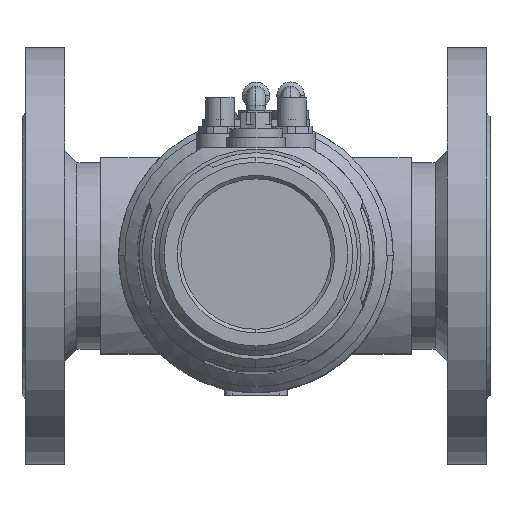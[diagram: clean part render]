
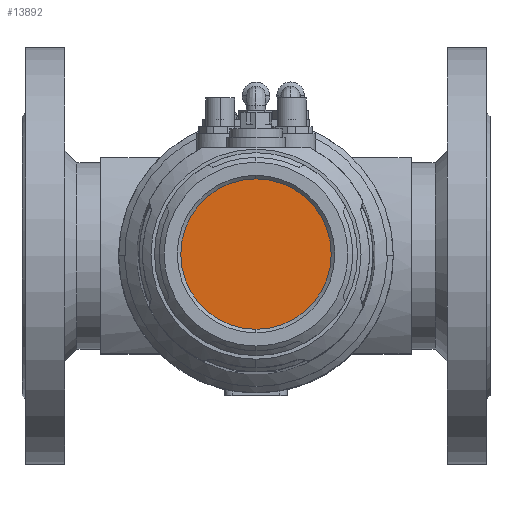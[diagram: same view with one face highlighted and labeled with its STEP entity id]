
A CAD part, top view. The second image highlights one B-rep face of the part: STEP entity #13892.
In plain terms, the highlighted planar face has unit normal (0, 0, 1) as drawn and (0, 1, 0) by its records, which use the part's own axes.
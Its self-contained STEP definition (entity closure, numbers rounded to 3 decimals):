
#9284=CARTESIAN_POINT('',(0.,20.,0.));
#9285=DIRECTION('',(0.,-1.,0.));
#9286=DIRECTION('',(-1.,0.,0.));
#9287=AXIS2_PLACEMENT_3D('',#9284,#9285,#9286);
#9289=CARTESIAN_POINT('',(0.,20.,0.));
#9290=DIRECTION('',(0.,-1.,0.));
#9291=DIRECTION('',(1.,0.,0.));
#9292=AXIS2_PLACEMENT_3D('',#9289,#9290,#9291);
#9310=CARTESIAN_POINT('',(-31.5,20.,0.));
#9311=CARTESIAN_POINT('',(31.5,20.,0.));
#9312=VERTEX_POINT('',#9310);
#9313=VERTEX_POINT('',#9311);
#13883=CARTESIAN_POINT('',(0.,20.,0.));
#13884=DIRECTION('',(0.,1.,0.));
#13885=DIRECTION('',(1.,0.,0.));
#13886=AXIS2_PLACEMENT_3D('',#13883,#13884,#13885);
#13887=PLANE('',#13886);
#13888=ORIENTED_EDGE('',*,*,#13863,.T.);
#13889=ORIENTED_EDGE('',*,*,#13877,.T.);
#13890=EDGE_LOOP('',(#13888,#13889));
#13891=FACE_OUTER_BOUND('',#13890,.F.);
#13892=ADVANCED_FACE('',(#13891),#13887,.T.);
#9288=CIRCLE('',#9287,31.5);
#9293=CIRCLE('',#9292,31.5);
#13863=EDGE_CURVE('',#9312,#9313,#9288,.T.);
#13877=EDGE_CURVE('',#9313,#9312,#9293,.T.);
